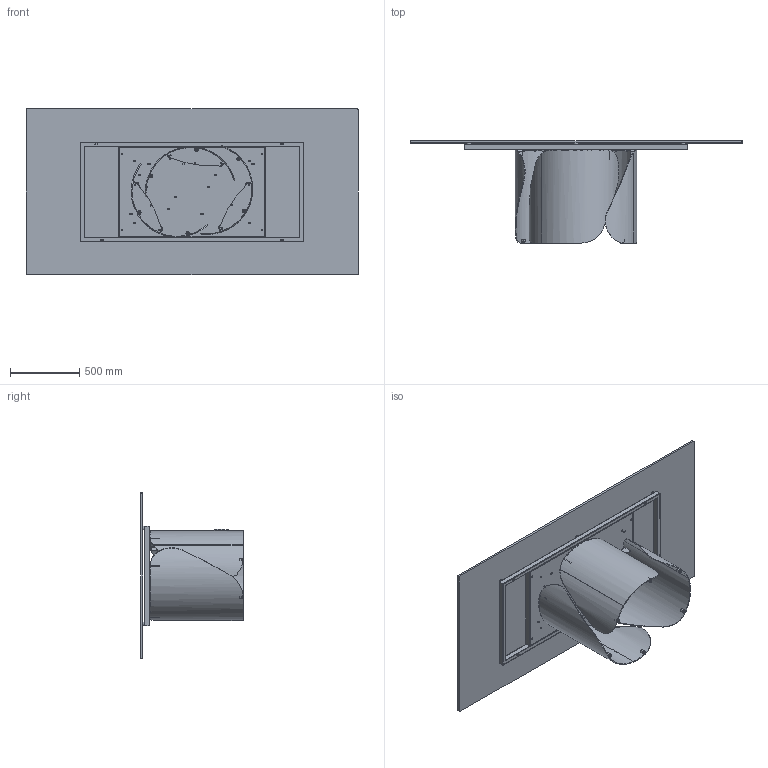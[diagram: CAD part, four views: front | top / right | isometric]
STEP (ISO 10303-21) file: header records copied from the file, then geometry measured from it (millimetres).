
FILE_DESCRIPTION (( 'STEP AP203' ), '1' );
FILE_NAME ('ON23G.STEP', '2024-08-06T13:51:52', ( '' ), ( '' ), 'SwSTEP 2.0', 'SolidWorks 2022', '' );
FILE_SCHEMA (( 'CONFIG_CONTROL_DESIGN' ));
Length unit declared in the file: millimetre
Products named in the file (15): TTAV0601-00-TELAIO X TAVOLI PLAI ONDA NOA 240cm_TTAV06; OND000000_01-00-PIASTRA SUPERIORE BASE ONDA; 434070-00-PIEDINO TPV GOMMA NERO D. 30x8max18_filo estetico; COLLO BASE ONDA SINGOLA CON FERRAMENTA; OND000000-03-ONDA BASE GREZZA; COLLO TELAIO UNIVERSALE TTAV0601 CON FERRAMENTA_FERRAMENTA MTG TOP CRISTALLO VERNICIATO-CERAMICA; PIEDINO PER ONDA; TTAV0601_01-00-STRUTTURA X TAVOLI PLAI ONDA NOA 240; rondella M8_8X24; ON23G; M8xXXmm_M8x20mm; TTAV0601_02-00-VASSOIO TAVOLI PLAI ONDA NOA 240; OND000000_02-00-CILINDRO DI FISSAGGIO Ø25X17 M8; OND000000_03-00-LAMIERA CURVATA PRINCIPALE_OND00000X-00-ONDA BASE GREZZA PROTOTIPO; C2XCRXX-00-Piani Rettangolari Cristallo_23 2400x1200
Assembly tree (45 placements, depth 4):
  ON23G
    COLLO TELAIO UNIVERSALE TTAV0601 CON FERRAMENTA_FERRAMENTA MTG TOP CRISTALLO VERNICIATO-CERAMICA
      TTAV0601-00-TELAIO X TAVOLI PLAI ONDA NOA 240cm_TTAV06
        TTAV0601_02-00-VASSOIO TAVOLI PLAI ONDA NOA 240
        TTAV0601_01-00-STRUTTURA X TAVOLI PLAI ONDA NOA 240
      434070-00-PIEDINO TPV GOMMA NERO D. 30x8max18_filo estetico  x6
    COLLO BASE ONDA SINGOLA CON FERRAMENTA  x3
      OND000000-03-ONDA BASE GREZZA
        OND000000_03-00-LAMIERA CURVATA PRINCIPALE_OND00000X-00-ONDA BASE GREZZA PROTOTIPO
        OND000000_01-00-PIASTRA SUPERIORE BASE ONDA
        OND000000_02-00-CILINDRO DI FISSAGGIO Ø25X17 M8  x2
      PIEDINO PER ONDA
    rondella M8_8X24  x12
    M8xXXmm_M8x20mm  x12
    C2XCRXX-00-Piani Rettangolari Cristallo_23 2400x1200
Bounding box: 2400 x 741 x 1200 mm (x, y, z)
Volume: 56116753.4 mm3; surface area: 12161420.5 mm2
Topology: 63 solids, 63 shells, 1551 faces, 3509 edges, 2114 vertices
Faces by surface type: plane 582, cylinder 497, cone 212, torus 192, bspline 60, sphere 8
Entity records: 21333 total; most frequent: CARTESIAN_POINT 4824, DIRECTION 3068, ORIENTED_EDGE 2818, EDGE_CURVE 1409, AXIS2_PLACEMENT_3D 1148, VERTEX_POINT 862, LINE 772, VECTOR 772
